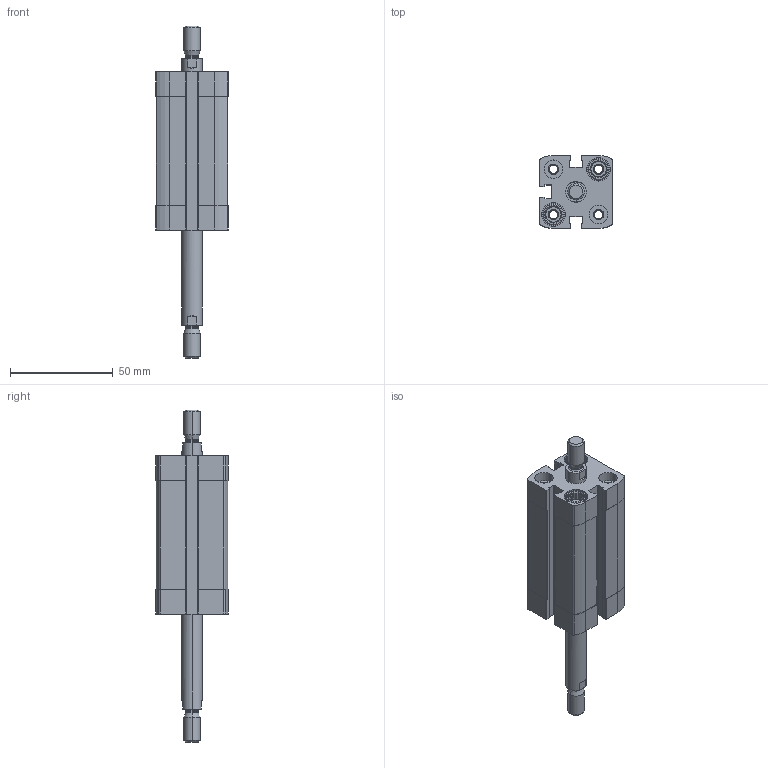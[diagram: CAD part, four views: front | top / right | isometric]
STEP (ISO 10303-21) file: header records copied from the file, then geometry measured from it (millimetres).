
FILE_DESCRIPTION (( 'STEP AP203' ), '1' );
FILE_NAME ('CCN20-40-P.STEP', '2020-06-22T18:40:31', ( '' ), ( '' ), 'SwSTEP 2.0', 'SolidWorks 2019', '' );
FILE_SCHEMA (( 'CONFIG_CONTROL_DESIGN' ));
Length unit declared in the file: millimetre
Products named in the file (1): CCN20-40-P
Bounding box: 35.5 x 35.5 x 161.5 mm (x, y, z)
Volume: 74377.3 mm3; surface area: 32393 mm2
Topology: 2 solids, 2 shells, 428 faces, 1120 edges, 728 vertices
Faces by surface type: plane 236, cylinder 140, cone 44, torus 8
Entity records: 13423 total; most frequent: CARTESIAN_POINT 2577, DIRECTION 2314, ORIENTED_EDGE 2240, EDGE_CURVE 1120, AXIS2_PLACEMENT_3D 865, VERTEX_POINT 728, VECTOR 584, LINE 584
